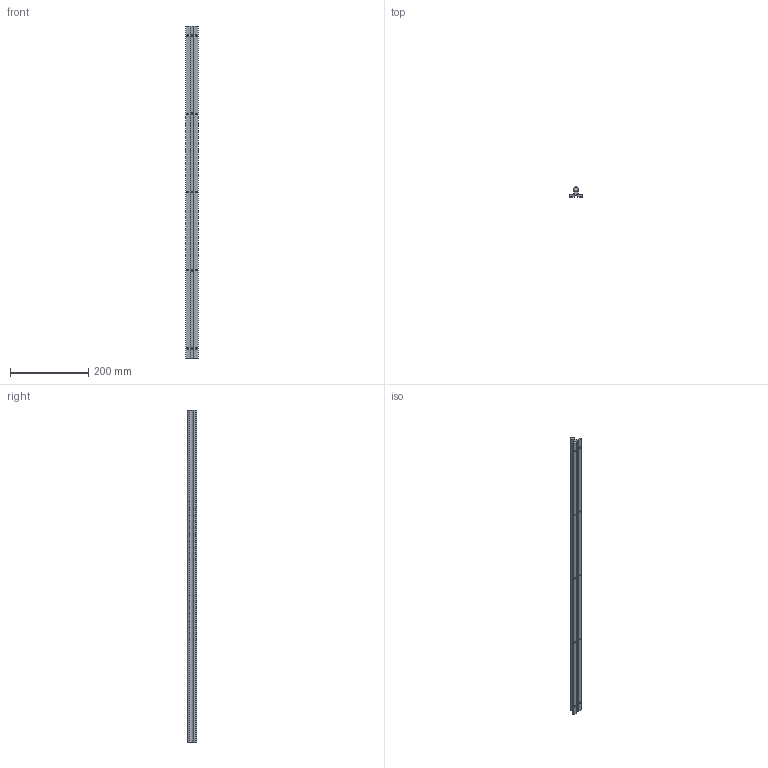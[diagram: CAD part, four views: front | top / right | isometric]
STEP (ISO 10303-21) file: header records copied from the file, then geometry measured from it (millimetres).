
FILE_DESCRIPTION (( 'STEP AP214' ), '1' );
FILE_NAME ('SBR12-850.STEP', '2025-09-17T14:43:21', ( '' ), ( '' ), 'SwSTEP 2.0', 'SolidWorks 2019', '' );
FILE_SCHEMA (( 'AUTOMOTIVE_DESIGN' ));
Length unit declared in the file: millimetre
Products named in the file (1): SBR12-850
Bounding box: 32 x 24.5 x 850 mm (x, y, z)
Volume: 242405.7 mm3; surface area: 113170.6 mm2
Topology: 2 solids, 2 shells, 75 faces, 218 edges, 142 vertices
Faces by surface type: cylinder 54, plane 21
Entity records: 3173 total; most frequent: CARTESIAN_POINT 1066, ORIENTED_EDGE 436, DIRECTION 418, EDGE_CURVE 218, AXIS2_PLACEMENT_3D 154, VERTEX_POINT 142, LINE 110, VECTOR 110
